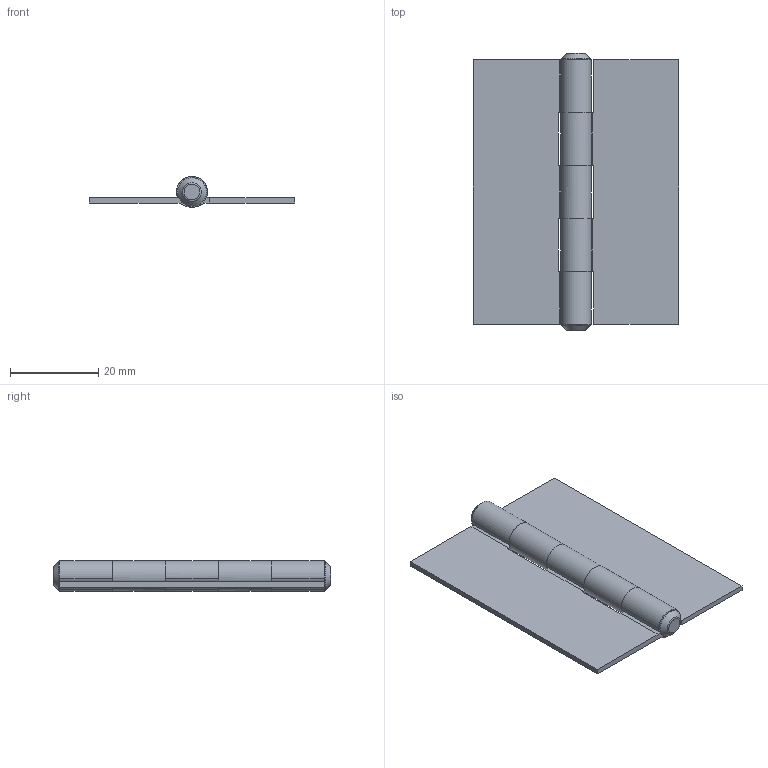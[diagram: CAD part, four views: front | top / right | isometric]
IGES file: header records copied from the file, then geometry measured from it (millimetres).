
Global section: file name: DR_HHN6046-12; native system: Autodesk Inventor 2015; preprocessor: unknown; author: Administrator; date: 20180811.154352; units: millimetre
Bounding box: 46.5 x 63 x 7 mm (x, y, z)
Volume: 5166.2 mm3; surface area: 8417.7 mm2
Topology: 3 solids, 3 shells, 59 faces, 153 edges, 102 vertices
Faces by surface type: bspline 59
